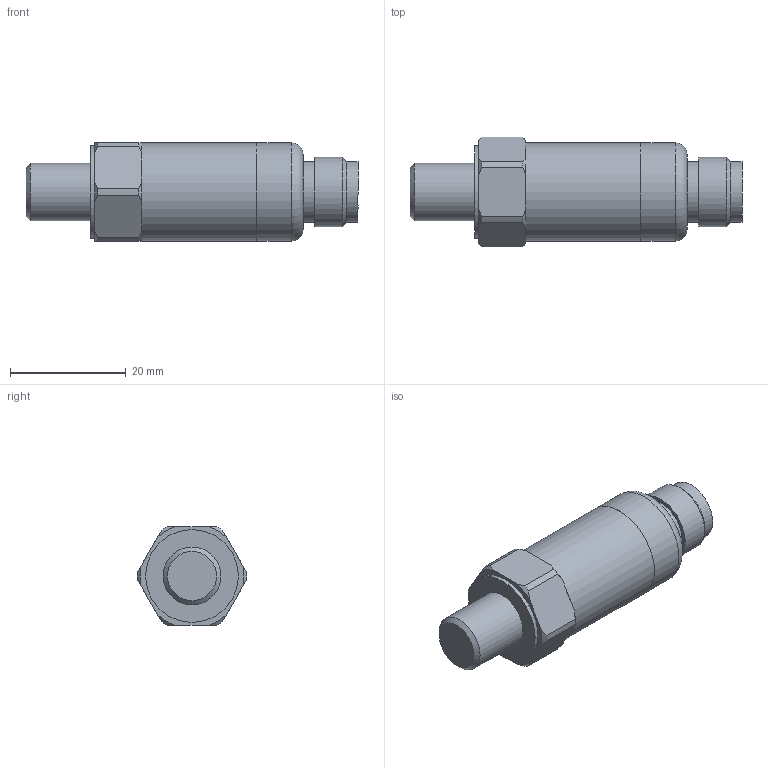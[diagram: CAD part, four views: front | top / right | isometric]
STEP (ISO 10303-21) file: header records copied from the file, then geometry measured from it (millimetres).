
FILE_DESCRIPTION(/* description */ (''),/* implementation_level */ '2;1');
FILE_NAME(/* name */ 'Z:\Engineering\Drawings\3D Library\Assemblies\Website\Premium Top\Compact\HS-170 Top M12\HS-1700105410.stp',/* time_stamp */ '2023-03-16T17:07:09+00:00',/* author */ ('Ricardo.Peneda'),/* organization */ (''),/* preprocessor_version */ 'ST-DEVELOPER v18.1',/* originating_system */ 'Autodesk Inventor 2021',/* authorisation */ '');
FILE_SCHEMA (('AUTOMOTIVE_DESIGN { 1 0 10303 214 3 1 1 }'));
Length unit declared in the file: inch
Products named in the file (1): HS-1700105410_Shrinkwrap_1
Bounding box: 57.4 x 19 x 17 mm (x, y, z)
Volume: 5183.3 mm3; surface area: 5502.6 mm2
Topology: 3 solids, 3 shells, 66 faces, 171 edges, 120 vertices
Faces by surface type: plane 27, cylinder 21, cone 17, torus 1
Full cylindrical faces by diameter (mm): 5 x1, 5.359 x1, 6.35 x1, 7 x1, 9.4 x1, 10 x1, 10.5 x2, 12 x1, 13.45 x1, 15.05 x1, 15.45 x1, 16 x1, 16.95 x1, 17 x1
Entity records: 2177 total; most frequent: CARTESIAN_POINT 405, DIRECTION 376, ORIENTED_EDGE 340, EDGE_CURVE 170, AXIS2_PLACEMENT_3D 163, VERTEX_POINT 120, CIRCLE 96, EDGE_LOOP 78
